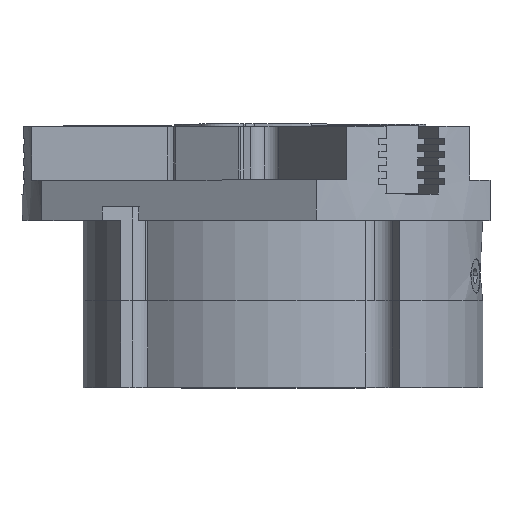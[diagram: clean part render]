
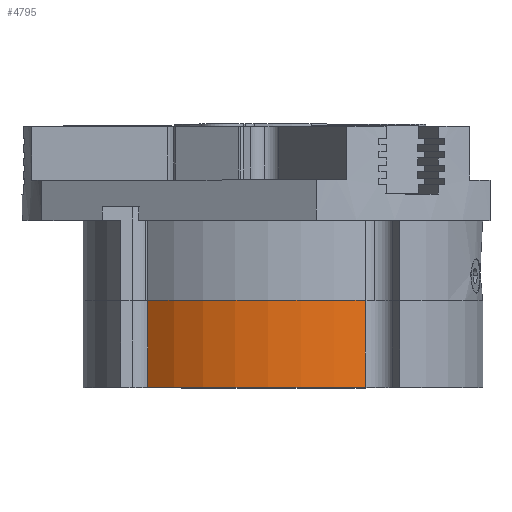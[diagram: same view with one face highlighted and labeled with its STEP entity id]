
A CAD part, top view. The second image highlights one B-rep face of the part: STEP entity #4795.
In plain terms, the highlighted cylindrical face has radius 150 mm (diameter 300 mm), a partial arc.
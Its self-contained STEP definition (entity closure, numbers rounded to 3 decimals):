
#435 = DIRECTION ( 'NONE',  ( 0., 1., 0. ) ) ;
#1122 = VERTEX_POINT ( 'NONE', #13356 ) ;
#1316 = ORIENTED_EDGE ( 'NONE', *, *, #1907, .T. ) ;
#1699 = CIRCLE ( 'NONE', #6066, 150. ) ;
#1907 = EDGE_CURVE ( 'NONE', #1122, #5542, #1699, .T. ) ;
#2041 = LINE ( 'NONE', #5667, #14148 ) ;
#2049 = ORIENTED_EDGE ( 'NONE', *, *, #14970, .T. ) ;
#2107 = FACE_OUTER_BOUND ( 'NONE', #13164, .T. ) ;
#2994 = DIRECTION ( 'NONE',  ( 0., -1., 0. ) ) ;
#3355 = DIRECTION ( 'NONE',  ( 0., -1., 0. ) ) ;
#3900 = LINE ( 'NONE', #11498, #10653 ) ;
#4097 = CARTESIAN_POINT ( 'NONE',  ( 0., 0., 0. ) ) ;
#4795 = ADVANCED_FACE ( 'NONE', ( #2107 ), #5172, .T. ) ;
#5172 = CYLINDRICAL_SURFACE ( 'NONE', #15692, 150. ) ;
#5309 = ORIENTED_EDGE ( 'NONE', *, *, #10990, .T. ) ;
#5542 = VERTEX_POINT ( 'NONE', #15323 ) ;
#5667 = CARTESIAN_POINT ( 'NONE',  ( -111.014, 65., -100.876 ) ) ;
#6066 = AXIS2_PLACEMENT_3D ( 'NONE', #4097, #435, #12722 ) ;
#6230 = DIRECTION ( 'NONE',  ( 0., -1., 0. ) ) ;
#6887 = DIRECTION ( 'NONE',  ( 0., 0., -1. ) ) ;
#7060 = VERTEX_POINT ( 'NONE', #15669 ) ;
#7430 = CARTESIAN_POINT ( 'NONE',  ( 0., 65., 0. ) ) ;
#7744 = DIRECTION ( 'NONE',  ( 0., 0., -1. ) ) ;
#9515 = CARTESIAN_POINT ( 'NONE',  ( -136.753, 65., 61.634 ) ) ;
#9621 = CIRCLE ( 'NONE', #12574, 150. ) ;
#10024 = VERTEX_POINT ( 'NONE', #9515 ) ;
#10653 = VECTOR ( 'NONE', #12644, 1000. ) ;
#10990 = EDGE_CURVE ( 'NONE', #5542, #10024, #3900, .T. ) ;
#11498 = CARTESIAN_POINT ( 'NONE',  ( -136.753, -11., 61.634 ) ) ;
#12574 = AXIS2_PLACEMENT_3D ( 'NONE', #15292, #2994, #6887 ) ;
#12644 = DIRECTION ( 'NONE',  ( 0., 1., 0. ) ) ;
#12722 = DIRECTION ( 'NONE',  ( 0., 0., -1. ) ) ;
#13164 = EDGE_LOOP ( 'NONE', ( #1316, #5309, #2049, #14295 ) ) ;
#13356 = CARTESIAN_POINT ( 'NONE',  ( -111.014, 0., -100.876 ) ) ;
#13970 = EDGE_CURVE ( 'NONE', #7060, #1122, #2041, .T. ) ;
#14148 = VECTOR ( 'NONE', #3355, 1000. ) ;
#14295 = ORIENTED_EDGE ( 'NONE', *, *, #13970, .T. ) ;
#14970 = EDGE_CURVE ( 'NONE', #10024, #7060, #9621, .T. ) ;
#15292 = CARTESIAN_POINT ( 'NONE',  ( 0., 65., 0. ) ) ;
#15323 = CARTESIAN_POINT ( 'NONE',  ( -136.753, 0., 61.634 ) ) ;
#15669 = CARTESIAN_POINT ( 'NONE',  ( -111.014, 65., -100.876 ) ) ;
#15692 = AXIS2_PLACEMENT_3D ( 'NONE', #7430, #6230, #7744 ) ;
